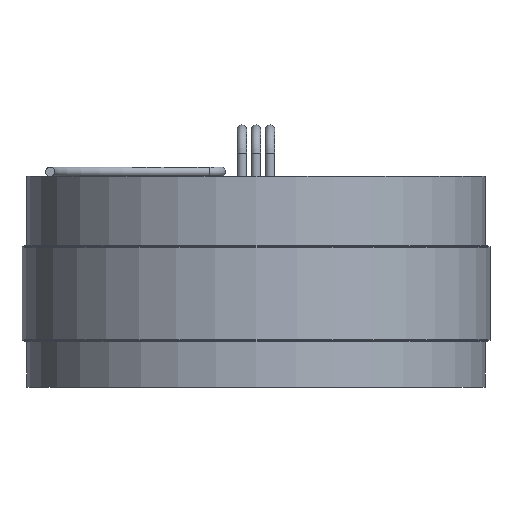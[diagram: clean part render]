
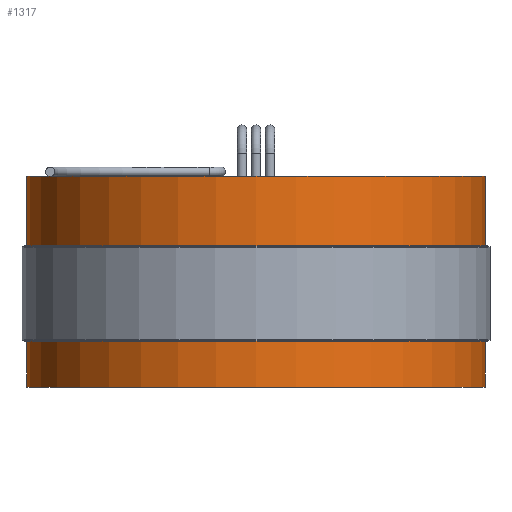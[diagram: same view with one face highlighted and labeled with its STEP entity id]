
A CAD part, front view. The second image highlights one B-rep face of the part: STEP entity #1317.
In plain terms, the highlighted cylindrical face has radius 62.23 mm (diameter 124.46 mm), a full revolution.
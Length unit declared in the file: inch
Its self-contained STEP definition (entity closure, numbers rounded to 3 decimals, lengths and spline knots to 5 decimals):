
#13 = CIRCLE ( 'NONE', #578, 2.45 ) ;
#67 = DIRECTION ( 'NONE',  ( 0., 0., 1. ) ) ;
#113 = FACE_OUTER_BOUND ( 'NONE', #278, .T. ) ;
#213 = DIRECTION ( 'NONE',  ( 0., 0., 1. ) ) ;
#257 = DIRECTION ( 'NONE',  ( 0., 0., 1. ) ) ;
#266 = CARTESIAN_POINT ( 'NONE',  ( 0., 0., 1.25 ) ) ;
#278 = EDGE_LOOP ( 'NONE', ( #1136 ) ) ;
#292 = CIRCLE ( 'NONE', #496, 2.45 ) ;
#496 = AXIS2_PLACEMENT_3D ( 'NONE', #1327, #213, #1104 ) ;
#526 = DIRECTION ( 'NONE',  ( 1., 0., 0. ) ) ;
#578 = AXIS2_PLACEMENT_3D ( 'NONE', #266, #257, #1362 ) ;
#740 = CYLINDRICAL_SURFACE ( 'NONE', #821, 2.45 ) ;
#766 = CARTESIAN_POINT ( 'NONE',  ( 2.45, 0., 1.25 ) ) ;
#770 = VERTEX_POINT ( 'NONE', #976 ) ;
#771 = EDGE_CURVE ( 'NONE', #770, #770, #292, .T. ) ;
#821 = AXIS2_PLACEMENT_3D ( 'NONE', #1391, #67, #526 ) ;
#848 = VERTEX_POINT ( 'NONE', #766 ) ;
#976 = CARTESIAN_POINT ( 'NONE',  ( 2.45, 0., -1. ) ) ;
#1078 = EDGE_CURVE ( 'NONE', #848, #848, #13, .T. ) ;
#1091 = FACE_OUTER_BOUND ( 'NONE', #1202, .T. ) ;
#1104 = DIRECTION ( 'NONE',  ( 1., 0., 0. ) ) ;
#1136 = ORIENTED_EDGE ( 'NONE', *, *, #771, .T. ) ;
#1202 = EDGE_LOOP ( 'NONE', ( #1233 ) ) ;
#1233 = ORIENTED_EDGE ( 'NONE', *, *, #1078, .F. ) ;
#1317 = ADVANCED_FACE ( 'NONE', ( #113, #1091 ), #740, .T. ) ;
#1327 = CARTESIAN_POINT ( 'NONE',  ( 0., 0., -1. ) ) ;
#1362 = DIRECTION ( 'NONE',  ( 1., 0., 0. ) ) ;
#1391 = CARTESIAN_POINT ( 'NONE',  ( 0., 0., -1. ) ) ;
